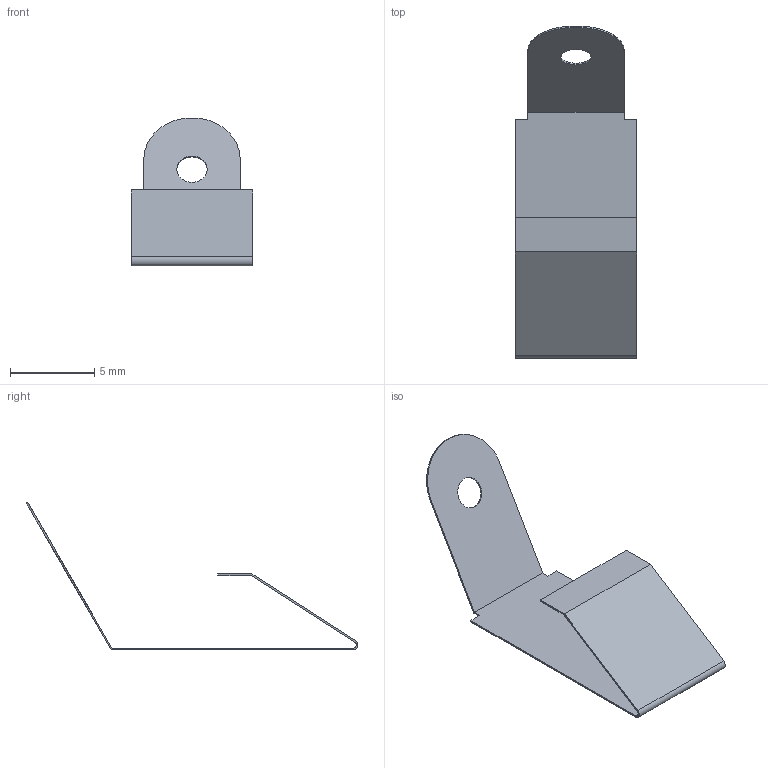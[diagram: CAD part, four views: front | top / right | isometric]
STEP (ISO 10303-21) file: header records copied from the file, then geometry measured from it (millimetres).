
FILE_DESCRIPTION (( 'STEP AP214' ), '1' );
FILE_NAME ('Conector electric PP7A.STEP', '2019-11-04T09:01:16', ( 'aaa' ), ( '' ), 'SwSTEP 2.0', 'SolidWorks 2014', '' );
FILE_SCHEMA (( 'AUTOMOTIVE_DESIGN' ));
Length unit declared in the file: millimetre
Products named in the file (1): Conector electric PP7A
Bounding box: 7.2 x 19.65 x 8.76 mm (x, y, z)
Volume: 22.5 mm3; surface area: 458.6 mm2
Topology: 1 solids, 1 shells, 22 faces, 60 edges, 40 vertices
Faces by surface type: plane 16, cylinder 6
Entity records: 734 total; most frequent: CARTESIAN_POINT 123, ORIENTED_EDGE 120, DIRECTION 118, EDGE_CURVE 60, VECTOR 48, LINE 48, VERTEX_POINT 40, AXIS2_PLACEMENT_3D 35
